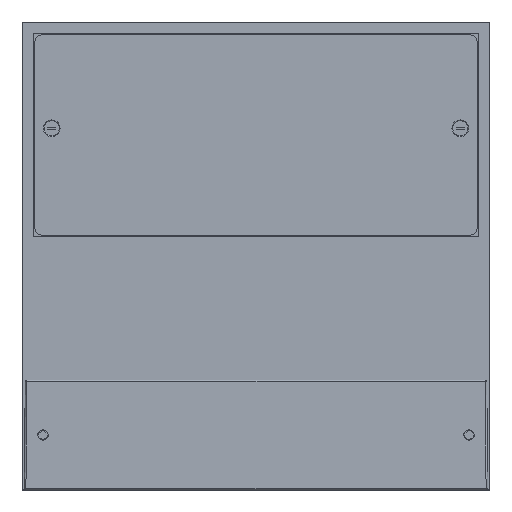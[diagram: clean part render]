
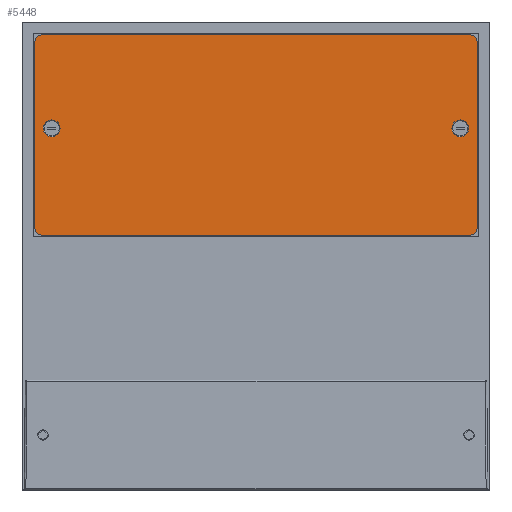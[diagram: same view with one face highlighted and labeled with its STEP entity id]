
A CAD part, top view. The second image highlights one B-rep face of the part: STEP entity #5448.
In plain terms, the highlighted planar face has unit normal (0, 0, 1).
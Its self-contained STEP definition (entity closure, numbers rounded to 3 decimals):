
#5261=CARTESIAN_POINT('',(66.5,8.5,7.9));
#5262=DIRECTION('',(0.,0.,-1.));
#5263=DIRECTION('',(1.,0.,0.));
#5264=AXIS2_PLACEMENT_3D('',#5261,#5262,#5263);
#5266=DIRECTION('',(-1.,0.,0.));
#5267=VECTOR('',#5266,133.);
#5268=CARTESIAN_POINT('',(66.5,6.5,7.9));
#5269=LINE('',#5268,#5267);
#5270=CARTESIAN_POINT('',(-66.5,8.5,7.9));
#5271=DIRECTION('',(0.,0.,-1.));
#5272=DIRECTION('',(0.,-1.,0.));
#5273=AXIS2_PLACEMENT_3D('',#5270,#5271,#5272);
#5275=DIRECTION('',(0.,1.,0.));
#5276=VECTOR('',#5275,58.);
#5277=CARTESIAN_POINT('',(-68.5,8.5,7.9));
#5278=LINE('',#5277,#5276);
#5279=CARTESIAN_POINT('',(-66.5,66.5,7.9));
#5280=DIRECTION('',(0.,0.,-1.));
#5281=DIRECTION('',(-1.,0.,0.));
#5282=AXIS2_PLACEMENT_3D('',#5279,#5280,#5281);
#5284=DIRECTION('',(1.,0.,0.));
#5285=VECTOR('',#5284,133.);
#5286=CARTESIAN_POINT('',(-66.5,68.5,7.9));
#5287=LINE('',#5286,#5285);
#5288=CARTESIAN_POINT('',(66.5,66.5,7.9));
#5289=DIRECTION('',(0.,0.,-1.));
#5290=DIRECTION('',(0.,1.,0.));
#5291=AXIS2_PLACEMENT_3D('',#5288,#5289,#5290);
#5293=DIRECTION('',(0.,-1.,0.));
#5294=VECTOR('',#5293,58.);
#5295=CARTESIAN_POINT('',(68.5,66.5,7.9));
#5296=LINE('',#5295,#5294);
#5297=CARTESIAN_POINT('',(-63.3,39.54,7.9));
#5298=DIRECTION('',(0.,0.,1.));
#5299=DIRECTION('',(1.,0.,0.));
#5300=AXIS2_PLACEMENT_3D('',#5297,#5298,#5299);
#5302=CARTESIAN_POINT('',(-63.3,39.54,7.9));
#5303=DIRECTION('',(0.,0.,1.));
#5304=DIRECTION('',(-1.,0.,0.));
#5305=AXIS2_PLACEMENT_3D('',#5302,#5303,#5304);
#5307=CARTESIAN_POINT('',(63.3,39.54,7.9));
#5308=DIRECTION('',(0.,0.,1.));
#5309=DIRECTION('',(1.,0.,0.));
#5310=AXIS2_PLACEMENT_3D('',#5307,#5308,#5309);
#5312=CARTESIAN_POINT('',(63.3,39.54,7.9));
#5313=DIRECTION('',(0.,0.,1.));
#5314=DIRECTION('',(-1.,0.,0.));
#5315=AXIS2_PLACEMENT_3D('',#5312,#5313,#5314);
#5373=CARTESIAN_POINT('',(66.5,6.5,7.9));
#5374=CARTESIAN_POINT('',(68.5,8.5,7.9));
#5375=VERTEX_POINT('',#5373);
#5376=VERTEX_POINT('',#5374);
#5377=CARTESIAN_POINT('',(68.5,66.5,7.9));
#5378=CARTESIAN_POINT('',(66.5,68.5,7.9));
#5379=VERTEX_POINT('',#5377);
#5380=VERTEX_POINT('',#5378);
#5381=CARTESIAN_POINT('',(-66.5,68.5,7.9));
#5382=CARTESIAN_POINT('',(-68.5,66.5,7.9));
#5383=VERTEX_POINT('',#5381);
#5384=VERTEX_POINT('',#5382);
#5385=CARTESIAN_POINT('',(-68.5,8.5,7.9));
#5386=CARTESIAN_POINT('',(-66.5,6.5,7.9));
#5387=VERTEX_POINT('',#5385);
#5388=VERTEX_POINT('',#5386);
#5393=CARTESIAN_POINT('',(-65.9,39.54,7.9));
#5394=CARTESIAN_POINT('',(-60.7,39.54,7.9));
#5395=VERTEX_POINT('',#5393);
#5396=VERTEX_POINT('',#5394);
#5409=CARTESIAN_POINT('',(65.9,39.54,7.9));
#5410=CARTESIAN_POINT('',(60.7,39.54,7.9));
#5411=VERTEX_POINT('',#5409);
#5412=VERTEX_POINT('',#5410);
#5413=CARTESIAN_POINT('',(0.,37.5,7.9));
#5414=DIRECTION('',(0.,0.,-1.));
#5415=DIRECTION('',(-1.,0.,0.));
#5416=AXIS2_PLACEMENT_3D('',#5413,#5414,#5415);
#5417=PLANE('',#5416);
#5419=ORIENTED_EDGE('',*,*,#5418,.T.);
#5421=ORIENTED_EDGE('',*,*,#5420,.T.);
#5423=ORIENTED_EDGE('',*,*,#5422,.T.);
#5425=ORIENTED_EDGE('',*,*,#5424,.T.);
#5427=ORIENTED_EDGE('',*,*,#5426,.T.);
#5429=ORIENTED_EDGE('',*,*,#5428,.T.);
#5431=ORIENTED_EDGE('',*,*,#5430,.T.);
#5433=ORIENTED_EDGE('',*,*,#5432,.T.);
#5434=EDGE_LOOP('',(#5419,#5421,#5423,#5425,#5427,#5429,#5431,#5433));
#5435=FACE_OUTER_BOUND('',#5434,.F.);
#5437=ORIENTED_EDGE('',*,*,#5436,.T.);
#5439=ORIENTED_EDGE('',*,*,#5438,.T.);
#5440=EDGE_LOOP('',(#5437,#5439));
#5441=FACE_BOUND('',#5440,.F.);
#5443=ORIENTED_EDGE('',*,*,#5442,.T.);
#5445=ORIENTED_EDGE('',*,*,#5444,.T.);
#5446=EDGE_LOOP('',(#5443,#5445));
#5447=FACE_BOUND('',#5446,.F.);
#5448=ADVANCED_FACE('',(#5435,#5441,#5447),#5417,.F.);
#5265=CIRCLE('',#5264,2.);
#5274=CIRCLE('',#5273,2.);
#5283=CIRCLE('',#5282,2.);
#5292=CIRCLE('',#5291,2.);
#5301=CIRCLE('',#5300,2.6);
#5306=CIRCLE('',#5305,2.6);
#5311=CIRCLE('',#5310,2.6);
#5316=CIRCLE('',#5315,2.6);
#5418=EDGE_CURVE('',#5376,#5375,#5265,.T.);
#5420=EDGE_CURVE('',#5375,#5388,#5269,.T.);
#5422=EDGE_CURVE('',#5388,#5387,#5274,.T.);
#5424=EDGE_CURVE('',#5387,#5384,#5278,.T.);
#5426=EDGE_CURVE('',#5384,#5383,#5283,.T.);
#5428=EDGE_CURVE('',#5383,#5380,#5287,.T.);
#5430=EDGE_CURVE('',#5380,#5379,#5292,.T.);
#5432=EDGE_CURVE('',#5379,#5376,#5296,.T.);
#5436=EDGE_CURVE('',#5396,#5395,#5301,.T.);
#5438=EDGE_CURVE('',#5395,#5396,#5306,.T.);
#5442=EDGE_CURVE('',#5411,#5412,#5311,.T.);
#5444=EDGE_CURVE('',#5412,#5411,#5316,.T.);
